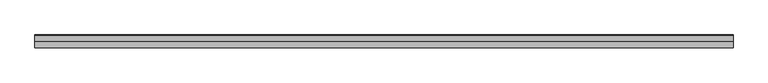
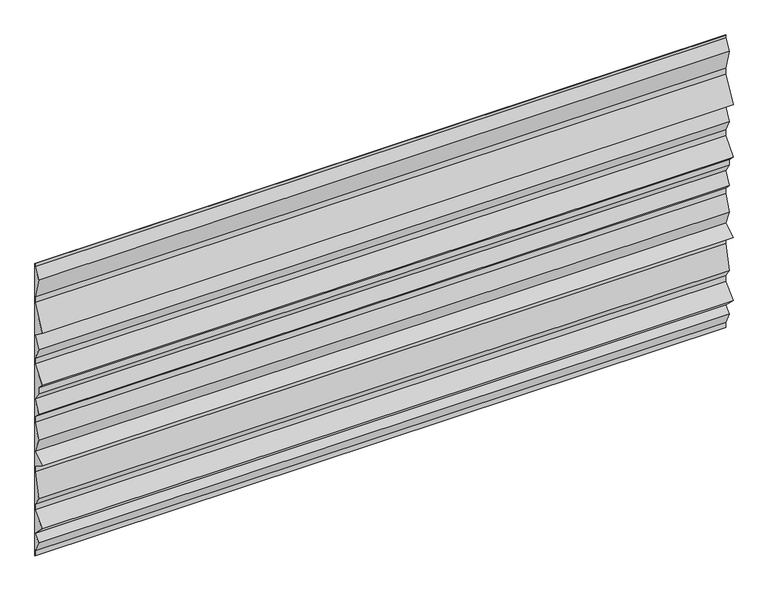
"""IFC4 building model written with IfcOpenShell, lengths in millimetres: plate geometry, ATELIERS 3S_GLACE PISSAILLAS 1000_HORIZONTAL : AZURO."""

from ifc_helpers import new_model, si_unit, frame, origin, place, context, project, spatial, polyline, outline, extrude, source, transform, mapped, element, save


def plate_e6db59d2(model_context):
    return source(origin(), model_context, "Body", "SweptSolid", [
        extrude(outline(polyline([(-0.8, 0.0), (-0.8, 16.9163895), (-20.9135393, 57.5498441), (-1.0660999, 76.9962838), (-41.0606602, 116.9908441), (-0.75, 157.3015043), (-0.75, 176.7637624), (-20.8080747, 206.8508744), (-0.75, 287.0831733), (-0.75, 306.5751584), (-41.4150972, 331.9908441), (-0.9292392, 357.2945053), (-20.8077747, 406.9908441), (-0.75, 457.1352809), (-0.75, 476.6801839), (-20.9125704, 496.8427543), (-0.8654665, 536.9369621), (-20.75, 566.7637624), (-20.75, 586.6801839), (-41.009736, 606.9399199), (-0.75, 656.2580964), (-0.75, 675.8137931), (-20.8385255, 715.9908441), (-0.9507458, 755.7664035), (-40.9507458, 785.7664035), (-0.75, 866.1678951), (-0.75, 885.8862432), (-20.8096981, 956.4025169), (-0.8, 990.1124394), (-0.8, 1000.0), (0.0, 1000.0), (0.0, 0.0), (-0.8, 0.0)])), frame((-1116.75, 0.0, 0.0), z_axis=(1.0, 0.0, 0.0), x_axis=(0.0, 1.0, 0.0)), (0.0, 0.0, 1.0), 2233.5),
    ])


if __name__ == "__main__":
    model = new_model("IFC4")
    model_context = context("Model", 3, world=origin())
    ifc_project = project(units=[si_unit("LENGTHUNIT", "METRE", prefix="MILLI")], contexts=[model_context])
    site = spatial("IfcSite", under=ifc_project)
    building = spatial("IfcBuilding", under=site)
    placement = place(None, origin())
    plate_shape = plate_e6db59d2(model_context)
    element("IfcPlate", 1, ObjectType="ATELIERS 3S_GLACE PISSAILLAS 1000_HORIZONTAL : AZURO", at=placement, inside=building, context=model_context, shape_type="MappedRepresentation", body=[
        mapped(plate_shape, transform((0.0, 0.0, 0.0), x_axis=(1.0, 0.0, 0.0), y_axis=(0.0, 1.0, 0.0), z_axis=(0.0, 0.0, 1.0))),
    ])
    save(model, "model.ifc")
